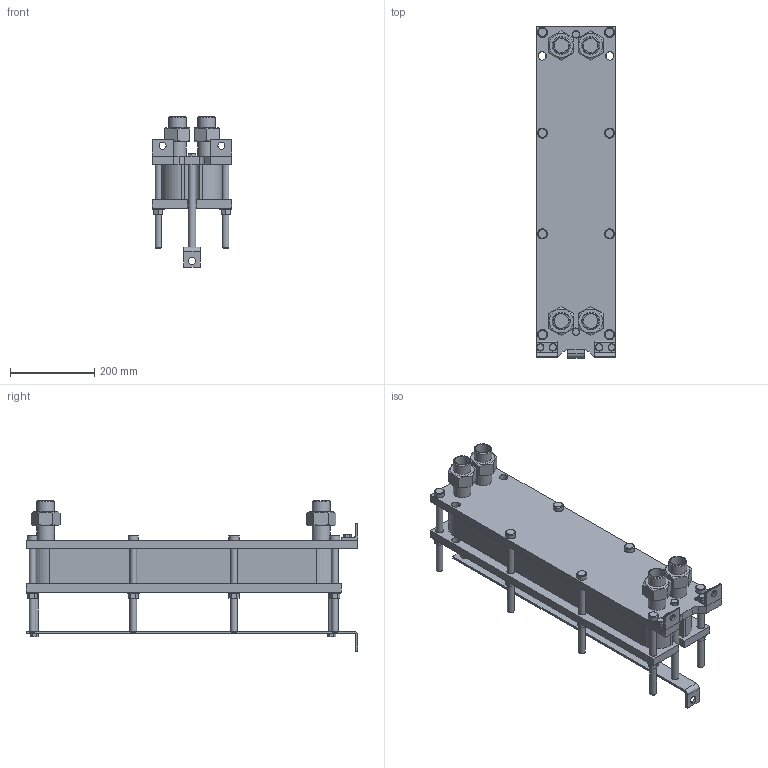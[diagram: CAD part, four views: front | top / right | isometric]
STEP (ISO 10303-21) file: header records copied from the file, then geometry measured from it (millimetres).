
FILE_DESCRIPTION(/* description */ (''),/* implementation_level */ '2;1');
FILE_NAME(/* name */ 'C:\Users\zhuro\Desktop\ENCO\TO\ЭН-008\ЭН-0,5-008-27-1.stp',/* time_stamp */ '2022-06-06T10:47:00+03:00',/* author */ ('zhuro'),/* organization */ (''),/* preprocessor_version */ 'ST-DEVELOPER v18.1',/* originating_system */ 'Autodesk Inventor 2022',/* authorisation */ '');
FILE_SCHEMA (('AUTOMOTIVE_DESIGN { 1 0 10303 214 3 1 1 }'));
Length unit declared in the file: millimetre
Products named in the file (1): ЭН-0,5-008-27-1
Bounding box: 190 x 790 x 358.6 mm (x, y, z)
Volume: 15195349.2 mm3; surface area: 1404030.2 mm2
Topology: 40 solids, 40 shells, 428 faces, 924 edges, 606 vertices
Faces by surface type: plane 273, cylinder 109, cone 40, torus 6
Full cylindrical faces by diameter (mm): 12 x6, 14 x2, 16 x20, 17 x8, 18 x19, 20 x5, 24 x8, 28 x8, 34.3 x8, 42.3 x8
Entity records: 15843 total; most frequent: CARTESIAN_POINT 5991, DIRECTION 1984, ORIENTED_EDGE 1848, EDGE_CURVE 924, AXIS2_PLACEMENT_3D 715, VERTEX_POINT 606, LINE 554, VECTOR 554
